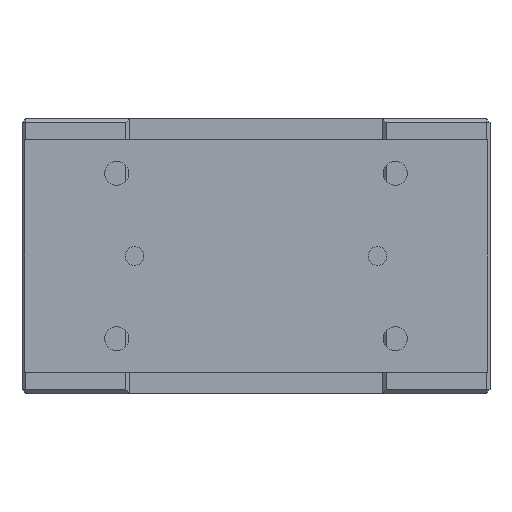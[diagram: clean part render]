
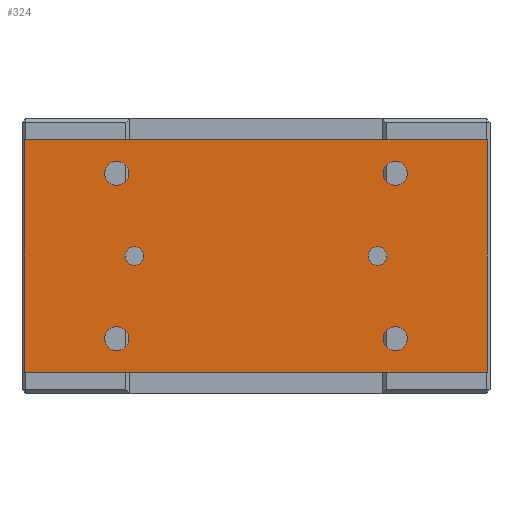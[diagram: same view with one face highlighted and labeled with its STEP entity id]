
A CAD part, left-side view. The second image highlights one B-rep face of the part: STEP entity #324.
In plain terms, the highlighted planar face has unit normal (-1, 0, 0).
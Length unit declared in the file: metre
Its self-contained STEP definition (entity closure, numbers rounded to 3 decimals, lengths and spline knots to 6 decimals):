
#324 = ADVANCED_FACE( '', ( #863, #864, #865, #866, #867, #868, #869 ), #870, .T. );
#863 = FACE_BOUND( '', #1757, .T. );
#864 = FACE_BOUND( '', #1758, .T. );
#865 = FACE_BOUND( '', #1759, .T. );
#866 = FACE_BOUND( '', #1760, .T. );
#867 = FACE_BOUND( '', #1761, .T. );
#868 = FACE_BOUND( '', #1762, .T. );
#869 = FACE_OUTER_BOUND( '', #1763, .T. );
#870 = PLANE( '', #1764 );
#1757 = EDGE_LOOP( '', ( #2731 ) );
#1758 = EDGE_LOOP( '', ( #2732 ) );
#1759 = EDGE_LOOP( '', ( #2733 ) );
#1760 = EDGE_LOOP( '', ( #2734 ) );
#1761 = EDGE_LOOP( '', ( #2735 ) );
#1762 = EDGE_LOOP( '', ( #2736 ) );
#1763 = EDGE_LOOP( '', ( #2737, #2738, #2739, #2740 ) );
#1764 = AXIS2_PLACEMENT_3D( '', #2741, #2742, #2743 );
#2731 = ORIENTED_EDGE( '', *, *, #4396, .F. );
#2732 = ORIENTED_EDGE( '', *, *, #4389, .T. );
#2733 = ORIENTED_EDGE( '', *, *, #4347, .F. );
#2734 = ORIENTED_EDGE( '', *, *, #4397, .F. );
#2735 = ORIENTED_EDGE( '', *, *, #4398, .F. );
#2736 = ORIENTED_EDGE( '', *, *, #4399, .F. );
#2737 = ORIENTED_EDGE( '', *, *, #4344, .T. );
#2738 = ORIENTED_EDGE( '', *, *, #4400, .T. );
#2739 = ORIENTED_EDGE( '', *, *, #4401, .T. );
#2740 = ORIENTED_EDGE( '', *, *, #4374, .T. );
#2741 = CARTESIAN_POINT( '', ( -0.143, -0.1245, -0.0115 ) );
#2742 = DIRECTION( '', ( -1., 0., 0. ) );
#2743 = DIRECTION( '', ( 0., 0., 1. ) );
#4344 = EDGE_CURVE( '', #5016, #5014, #5017, .T. );
#4347 = EDGE_CURVE( '', #5020, #5020, #5021, .T. );
#4374 = EDGE_CURVE( '', #5068, #5016, #5069, .T. );
#4389 = EDGE_CURVE( '', #5094, #5094, #5095, .T. );
#4396 = EDGE_CURVE( '', #5105, #5105, #5106, .T. );
#4397 = EDGE_CURVE( '', #5107, #5107, #5108, .T. );
#4398 = EDGE_CURVE( '', #5109, #5109, #5110, .T. );
#4399 = EDGE_CURVE( '', #5111, #5111, #5112, .T. );
#4400 = EDGE_CURVE( '', #5014, #5113, #5114, .T. );
#4401 = EDGE_CURVE( '', #5113, #5068, #5115, .T. );
#5014 = VERTEX_POINT( '', #5995 );
#5016 = VERTEX_POINT( '', #5998 );
#5017 = LINE( '', #5999, #6000 );
#5020 = VERTEX_POINT( '', #6004 );
#5021 = CIRCLE( '', #6005, 0.0065 );
#5068 = VERTEX_POINT( '', #6069 );
#5069 = LINE( '', #6070, #6071 );
#5094 = VERTEX_POINT( '', #6107 );
#5095 = CIRCLE( '', #6108, 0.005 );
#5105 = VERTEX_POINT( '', #6118 );
#5106 = CIRCLE( '', #6119, 0.005 );
#5107 = VERTEX_POINT( '', #6120 );
#5108 = CIRCLE( '', #6121, 0.0065 );
#5109 = VERTEX_POINT( '', #6122 );
#5110 = CIRCLE( '', #6123, 0.0065 );
#5111 = VERTEX_POINT( '', #6124 );
#5112 = CIRCLE( '', #6125, 0.0065 );
#5113 = VERTEX_POINT( '', #6126 );
#5114 = LINE( '', #6127, #6128 );
#5115 = LINE( '', #6129, #6130 );
#5995 = CARTESIAN_POINT( '', ( -0.143, -0.1245, -0.0115 ) );
#5998 = CARTESIAN_POINT( '', ( -0.143, -0.1245, -0.1365 ) );
#5999 = CARTESIAN_POINT( '', ( -0.143, -0.1245, -0.1365 ) );
#6000 = VECTOR( '', #7368, 1. );
#6004 = CARTESIAN_POINT( '', ( -0.143, -0.075, -0.112 ) );
#6005 = AXIS2_PLACEMENT_3D( '', #7370, #7371, #7372 );
#6069 = CARTESIAN_POINT( '', ( -0.143, 0.1245, -0.1365 ) );
#6070 = CARTESIAN_POINT( '', ( -0.143, 0.1245, -0.1365 ) );
#6071 = VECTOR( '', #7399, 1. );
#6107 = CARTESIAN_POINT( '', ( -0.143, 0.0705, -0.074 ) );
#6108 = AXIS2_PLACEMENT_3D( '', #7411, #7412, #7413 );
#6118 = CARTESIAN_POINT( '', ( -0.143, -0.0705, -0.074 ) );
#6119 = AXIS2_PLACEMENT_3D( '', #7423, #7424, #7425 );
#6120 = CARTESIAN_POINT( '', ( -0.143, 0.075, -0.112 ) );
#6121 = AXIS2_PLACEMENT_3D( '', #7426, #7427, #7428 );
#6122 = CARTESIAN_POINT( '', ( -0.143, -0.075, -0.023 ) );
#6123 = AXIS2_PLACEMENT_3D( '', #7429, #7430, #7431 );
#6124 = CARTESIAN_POINT( '', ( -0.143, 0.075, -0.023 ) );
#6125 = AXIS2_PLACEMENT_3D( '', #7432, #7433, #7434 );
#6126 = CARTESIAN_POINT( '', ( -0.143, 0.1245, -0.0115 ) );
#6127 = CARTESIAN_POINT( '', ( -0.143, -0.1245, -0.0115 ) );
#6128 = VECTOR( '', #7435, 1. );
#6129 = CARTESIAN_POINT( '', ( -0.143, 0.1245, -0.0115 ) );
#6130 = VECTOR( '', #7436, 1. );
#7368 = DIRECTION( '', ( 0., 0., 1. ) );
#7370 = CARTESIAN_POINT( '', ( -0.143, -0.075, -0.1185 ) );
#7371 = DIRECTION( '', ( -1., 0., 0. ) );
#7372 = DIRECTION( '', ( 0., 0., 1. ) );
#7399 = DIRECTION( '', ( 0., -1., 0. ) );
#7411 = CARTESIAN_POINT( '', ( -0.143, 0.0655, -0.074 ) );
#7412 = DIRECTION( '', ( 1., 0., 0. ) );
#7413 = DIRECTION( '', ( 0., 1., 0. ) );
#7423 = CARTESIAN_POINT( '', ( -0.143, -0.0655, -0.074 ) );
#7424 = DIRECTION( '', ( -1., 0., 0. ) );
#7425 = DIRECTION( '', ( 0., -1., 0. ) );
#7426 = CARTESIAN_POINT( '', ( -0.143, 0.075, -0.1185 ) );
#7427 = DIRECTION( '', ( -1., 0., 0. ) );
#7428 = DIRECTION( '', ( 0., 0., 1. ) );
#7429 = CARTESIAN_POINT( '', ( -0.143, -0.075, -0.0295 ) );
#7430 = DIRECTION( '', ( -1., 0., 0. ) );
#7431 = DIRECTION( '', ( 0., 0., 1. ) );
#7432 = CARTESIAN_POINT( '', ( -0.143, 0.075, -0.0295 ) );
#7433 = DIRECTION( '', ( -1., 0., 0. ) );
#7434 = DIRECTION( '', ( 0., 0., 1. ) );
#7435 = DIRECTION( '', ( 0., 1., 0. ) );
#7436 = DIRECTION( '', ( 0., 0., -1. ) );
